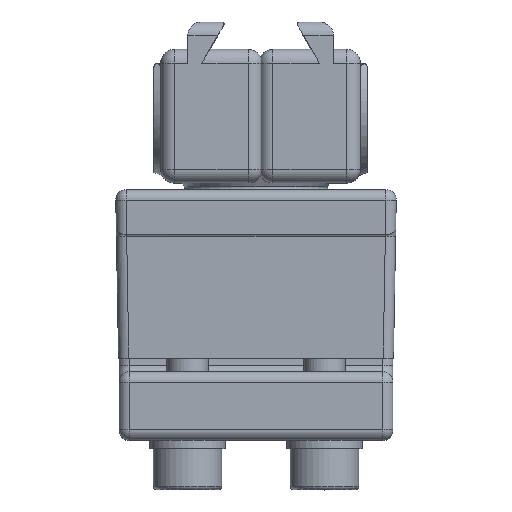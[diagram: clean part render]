
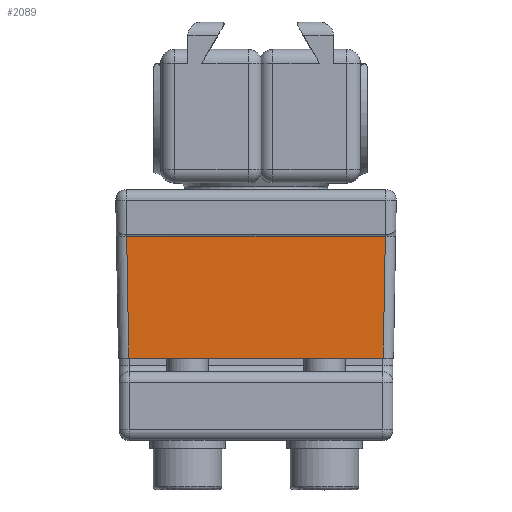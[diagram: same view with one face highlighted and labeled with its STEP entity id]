
A CAD part, top view. The second image highlights one B-rep face of the part: STEP entity #2089.
In plain terms, the highlighted planar face has unit normal (0, -0.018, 1).
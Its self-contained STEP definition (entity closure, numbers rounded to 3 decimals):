
#730=FACE_OUTER_BOUND('',#2989,.T.);
#963=PLANE('',#7400);
#1283=LINE('',#12747,#1653);
#1284=LINE('',#12750,#1654);
#1285=LINE('',#12752,#1655);
#1286=LINE('',#12754,#1656);
#1653=VECTOR('',#9100,1.);
#1654=VECTOR('',#9101,1.);
#1655=VECTOR('',#9102,1.);
#1656=VECTOR('',#9103,1.);
#2089=ADVANCED_FACE('',(#730),#963,.T.);
#2989=EDGE_LOOP('',(#4604,#4605,#4606,#4607));
#4604=ORIENTED_EDGE('',*,*,#6274,.F.);
#4605=ORIENTED_EDGE('',*,*,#6275,.T.);
#4606=ORIENTED_EDGE('',*,*,#6276,.F.);
#4607=ORIENTED_EDGE('',*,*,#6277,.T.);
#5418=VERTEX_POINT('',#12748);
#5419=VERTEX_POINT('',#12749);
#5420=VERTEX_POINT('',#12751);
#5421=VERTEX_POINT('',#12753);
#6274=EDGE_CURVE('',#5418,#5419,#1283,.T.);
#6275=EDGE_CURVE('',#5418,#5420,#1284,.T.);
#6276=EDGE_CURVE('',#5421,#5420,#1285,.T.);
#6277=EDGE_CURVE('',#5421,#5419,#1286,.T.);
#7400=AXIS2_PLACEMENT_3D('',#12755,#9104,#9105);
#9100=DIRECTION('',(-0.017,1.,0.017));
#9101=DIRECTION('',(1.,0.,0.));
#9102=DIRECTION('',(-0.017,-1.,-0.017));
#9103=DIRECTION('',(-1.,0.,0.));
#9104=DIRECTION('',(0.,-0.017,1.));
#9105=DIRECTION('',(0.,-1.,-0.017));
#12747=CARTESIAN_POINT('',(49.429,-83.176,28.395));
#12748=CARTESIAN_POINT('',(49.376,-80.15,28.448));
#12749=CARTESIAN_POINT('',(49.066,-62.348,28.759));
#12750=CARTESIAN_POINT('',(47.562,-80.15,28.448));
#12751=CARTESIAN_POINT('',(86.534,-80.15,28.448));
#12752=CARTESIAN_POINT('',(86.845,-62.348,28.759));
#12753=CARTESIAN_POINT('',(86.845,-62.348,28.759));
#12754=CARTESIAN_POINT('',(47.562,-62.348,28.759));
#12755=CARTESIAN_POINT('',(47.562,-62.148,28.762));
